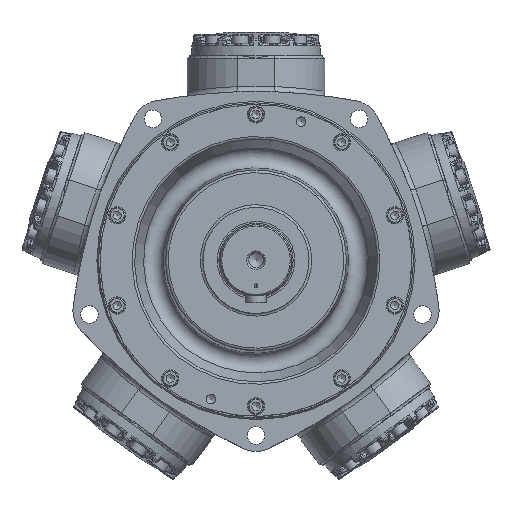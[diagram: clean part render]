
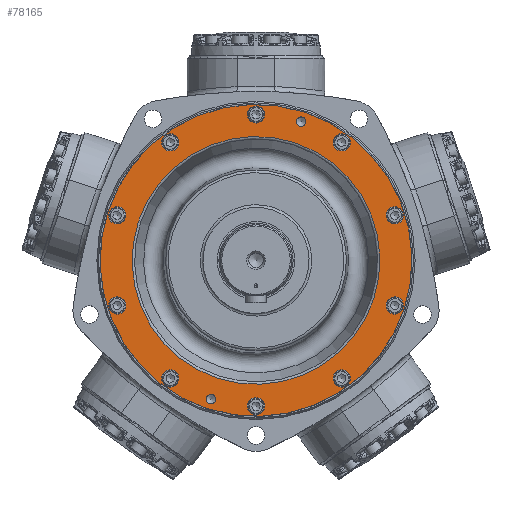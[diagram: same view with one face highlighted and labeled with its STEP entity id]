
A CAD part, top view. The second image highlights one B-rep face of the part: STEP entity #78165.
In plain terms, the highlighted planar face has unit normal (0, 0, 1).
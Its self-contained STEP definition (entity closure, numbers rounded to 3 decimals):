
#6850=FACE_BOUND('',#22846,.T.);
#6851=FACE_BOUND('',#22847,.T.);
#6852=FACE_BOUND('',#22848,.T.);
#6853=FACE_BOUND('',#22849,.T.);
#6854=FACE_BOUND('',#22850,.T.);
#6855=FACE_BOUND('',#22851,.T.);
#6856=FACE_BOUND('',#22852,.T.);
#6857=FACE_BOUND('',#22853,.T.);
#6858=FACE_BOUND('',#22854,.T.);
#6859=FACE_BOUND('',#22855,.T.);
#6860=FACE_BOUND('',#22856,.T.);
#6861=FACE_BOUND('',#22857,.T.);
#6862=FACE_BOUND('',#22858,.T.);
#15580=PLANE('',#83526);
#17884=FACE_OUTER_BOUND('',#22845,.T.);
#22845=EDGE_LOOP('',(#55730));
#22846=EDGE_LOOP('',(#55731));
#22847=EDGE_LOOP('',(#55732));
#22848=EDGE_LOOP('',(#55733));
#22849=EDGE_LOOP('',(#55734));
#22850=EDGE_LOOP('',(#55735));
#22851=EDGE_LOOP('',(#55736));
#22852=EDGE_LOOP('',(#55737));
#22853=EDGE_LOOP('',(#55738));
#22854=EDGE_LOOP('',(#55739));
#22855=EDGE_LOOP('',(#55740));
#22856=EDGE_LOOP('',(#55741));
#22857=EDGE_LOOP('',(#55742));
#22858=EDGE_LOOP('',(#55743));
#27295=CIRCLE('',#83507,148.273);
#27307=CIRCLE('',#83527,186.628);
#27308=CIRCLE('',#83528,5.664);
#27309=CIRCLE('',#83529,5.664);
#27310=CIRCLE('',#83530,10.319);
#27311=CIRCLE('',#83531,10.319);
#27312=CIRCLE('',#83532,10.319);
#27313=CIRCLE('',#83533,10.319);
#27314=CIRCLE('',#83534,10.319);
#27315=CIRCLE('',#83535,10.319);
#27316=CIRCLE('',#83536,10.319);
#27317=CIRCLE('',#83537,10.319);
#27318=CIRCLE('',#83538,10.319);
#27319=CIRCLE('',#83539,10.319);
#32271=VERTEX_POINT('',#144617);
#32281=VERTEX_POINT('',#144651);
#32282=VERTEX_POINT('',#144653);
#32283=VERTEX_POINT('',#144655);
#32284=VERTEX_POINT('',#144657);
#32285=VERTEX_POINT('',#144659);
#32286=VERTEX_POINT('',#144661);
#32287=VERTEX_POINT('',#144663);
#32288=VERTEX_POINT('',#144665);
#32289=VERTEX_POINT('',#144667);
#32290=VERTEX_POINT('',#144669);
#32291=VERTEX_POINT('',#144671);
#32292=VERTEX_POINT('',#144673);
#32293=VERTEX_POINT('',#144675);
#40608=EDGE_CURVE('',#32271,#32271,#27295,.T.);
#40623=EDGE_CURVE('',#32281,#32281,#27307,.T.);
#40624=EDGE_CURVE('',#32282,#32282,#27308,.T.);
#40625=EDGE_CURVE('',#32283,#32283,#27309,.T.);
#40626=EDGE_CURVE('',#32284,#32284,#27310,.T.);
#40627=EDGE_CURVE('',#32285,#32285,#27311,.T.);
#40628=EDGE_CURVE('',#32286,#32286,#27312,.T.);
#40629=EDGE_CURVE('',#32287,#32287,#27313,.T.);
#40630=EDGE_CURVE('',#32288,#32288,#27314,.T.);
#40631=EDGE_CURVE('',#32289,#32289,#27315,.T.);
#40632=EDGE_CURVE('',#32290,#32290,#27316,.T.);
#40633=EDGE_CURVE('',#32291,#32291,#27317,.T.);
#40634=EDGE_CURVE('',#32292,#32292,#27318,.T.);
#40635=EDGE_CURVE('',#32293,#32293,#27319,.T.);
#55730=ORIENTED_EDGE('',*,*,#40623,.T.);
#55731=ORIENTED_EDGE('',*,*,#40624,.T.);
#55732=ORIENTED_EDGE('',*,*,#40625,.T.);
#55733=ORIENTED_EDGE('',*,*,#40626,.T.);
#55734=ORIENTED_EDGE('',*,*,#40627,.T.);
#55735=ORIENTED_EDGE('',*,*,#40628,.T.);
#55736=ORIENTED_EDGE('',*,*,#40629,.T.);
#55737=ORIENTED_EDGE('',*,*,#40630,.T.);
#55738=ORIENTED_EDGE('',*,*,#40631,.T.);
#55739=ORIENTED_EDGE('',*,*,#40632,.T.);
#55740=ORIENTED_EDGE('',*,*,#40633,.T.);
#55741=ORIENTED_EDGE('',*,*,#40634,.T.);
#55742=ORIENTED_EDGE('',*,*,#40635,.T.);
#55743=ORIENTED_EDGE('',*,*,#40608,.F.);
#78165=ADVANCED_FACE('',(#17884,#6850,#6851,#6852,#6853,#6854,#6855,#6856,
#6857,#6858,#6859,#6860,#6861,#6862),#15580,.T.);
#83507=AXIS2_PLACEMENT_3D('',#144619,#93113,#93114);
#83526=AXIS2_PLACEMENT_3D('',#144650,#93154,#93155);
#83527=AXIS2_PLACEMENT_3D('',#144652,#93156,#93157);
#83528=AXIS2_PLACEMENT_3D('',#144654,#93158,#93159);
#83529=AXIS2_PLACEMENT_3D('',#144656,#93160,#93161);
#83530=AXIS2_PLACEMENT_3D('',#144658,#93162,#93163);
#83531=AXIS2_PLACEMENT_3D('',#144660,#93164,#93165);
#83532=AXIS2_PLACEMENT_3D('',#144662,#93166,#93167);
#83533=AXIS2_PLACEMENT_3D('',#144664,#93168,#93169);
#83534=AXIS2_PLACEMENT_3D('',#144666,#93170,#93171);
#83535=AXIS2_PLACEMENT_3D('',#144668,#93172,#93173);
#83536=AXIS2_PLACEMENT_3D('',#144670,#93174,#93175);
#83537=AXIS2_PLACEMENT_3D('',#144672,#93176,#93177);
#83538=AXIS2_PLACEMENT_3D('',#144674,#93178,#93179);
#83539=AXIS2_PLACEMENT_3D('',#144676,#93180,#93181);
#93113=DIRECTION('center_axis',(0.,0.,
1.));
#93114=DIRECTION('ref_axis',(-0.309,-0.951,0.));
#93154=DIRECTION('center_axis',(0.,0.,
1.));
#93155=DIRECTION('ref_axis',(0.951,-0.309,0.));
#93156=DIRECTION('center_axis',(0.,0.,
1.));
#93157=DIRECTION('ref_axis',(0.309,0.951,0.));
#93158=DIRECTION('center_axis',(0.,0.,
-1.));
#93159=DIRECTION('ref_axis',(0.951,-0.309,0.));
#93160=DIRECTION('center_axis',(0.,0.,
-1.));
#93161=DIRECTION('ref_axis',(0.951,-0.309,0.));
#93162=DIRECTION('center_axis',(0.,0.,
-1.));
#93163=DIRECTION('ref_axis',(-0.588,0.809,0.));
#93164=DIRECTION('center_axis',(0.,0.,
-1.));
#93165=DIRECTION('ref_axis',(0.,1.,0.));
#93166=DIRECTION('center_axis',(0.,0.,
-1.));
#93167=DIRECTION('ref_axis',(0.588,0.809,0.));
#93168=DIRECTION('center_axis',(0.,0.,
-1.));
#93169=DIRECTION('ref_axis',(0.951,0.309,0.));
#93170=DIRECTION('center_axis',(0.,0.,
-1.));
#93171=DIRECTION('ref_axis',(0.951,-0.309,0.));
#93172=DIRECTION('center_axis',(0.,0.,
-1.));
#93173=DIRECTION('ref_axis',(0.588,-0.809,0.));
#93174=DIRECTION('center_axis',(0.,0.,
-1.));
#93175=DIRECTION('ref_axis',(0.,-1.,0.));
#93176=DIRECTION('center_axis',(0.,0.,
-1.));
#93177=DIRECTION('ref_axis',(-0.588,-0.809,0.));
#93178=DIRECTION('center_axis',(0.,0.,
-1.));
#93179=DIRECTION('ref_axis',(-0.951,-0.309,0.));
#93180=DIRECTION('center_axis',(0.,0.,
-1.));
#93181=DIRECTION('ref_axis',(-0.951,0.309,0.));
#144617=CARTESIAN_POINT('',(-141.016,45.819,119.254));
#144619=CARTESIAN_POINT('Origin',(0.,0.,
119.254));
#144650=CARTESIAN_POINT('Origin',(52.49,161.549,119.254));
#144651=CARTESIAN_POINT('',(-57.671,-177.493,119.254));
#144652=CARTESIAN_POINT('Origin',(0.,0.,
119.254));
#144653=CARTESIAN_POINT('',(48.575,167.829,119.254));
#144654=CARTESIAN_POINT('Origin',(53.962,166.078,119.254));
#144655=CARTESIAN_POINT('',(-59.349,-164.328,119.254));
#144656=CARTESIAN_POINT('Origin',(-53.962,-166.078,119.254));
#144657=CARTESIAN_POINT('',(108.707,-149.623,119.254));
#144658=CARTESIAN_POINT('Origin',(102.642,-141.275,119.254));
#144659=CARTESIAN_POINT('',(0.,-184.944,119.254));
#144660=CARTESIAN_POINT('Origin',(0.,-174.625,119.254));
#144661=CARTESIAN_POINT('',(-108.707,-149.623,119.254));
#144662=CARTESIAN_POINT('Origin',(-102.642,-141.275,119.254));
#144663=CARTESIAN_POINT('',(-175.892,-57.151,119.254));
#144664=CARTESIAN_POINT('Origin',(-166.078,-53.962,119.254));
#144665=CARTESIAN_POINT('',(-175.892,57.151,119.254));
#144666=CARTESIAN_POINT('Origin',(-166.078,53.962,119.254));
#144667=CARTESIAN_POINT('',(-108.707,149.623,119.254));
#144668=CARTESIAN_POINT('Origin',(-102.642,141.275,119.254));
#144669=CARTESIAN_POINT('',(0.,184.944,119.254));
#144670=CARTESIAN_POINT('Origin',(0.,174.625,119.254));
#144671=CARTESIAN_POINT('',(108.707,149.623,119.254));
#144672=CARTESIAN_POINT('Origin',(102.642,141.275,119.254));
#144673=CARTESIAN_POINT('',(175.892,57.151,119.254));
#144674=CARTESIAN_POINT('Origin',(166.078,53.962,119.254));
#144675=CARTESIAN_POINT('',(175.892,-57.151,119.254));
#144676=CARTESIAN_POINT('Origin',(166.078,-53.962,119.254));
